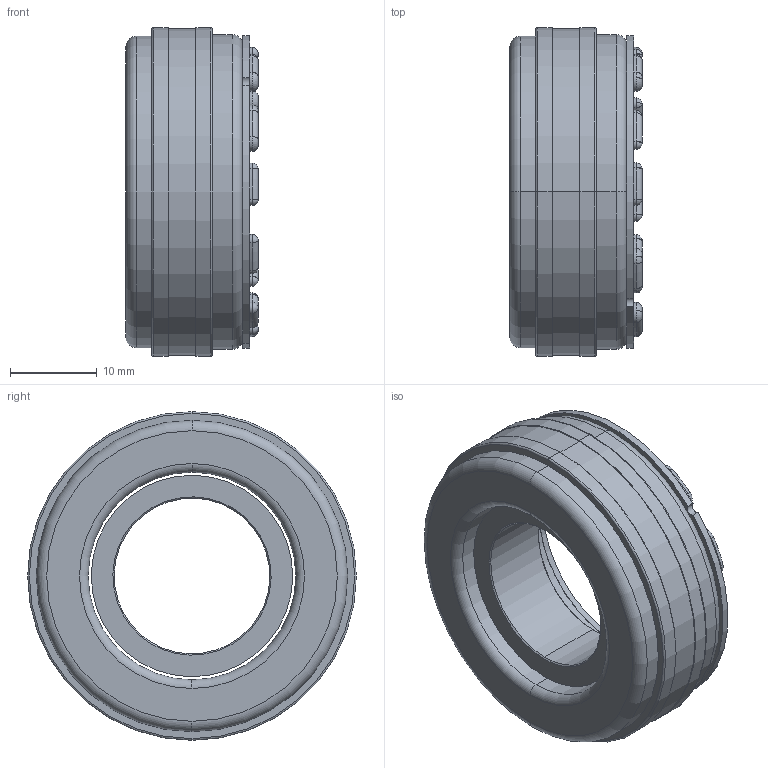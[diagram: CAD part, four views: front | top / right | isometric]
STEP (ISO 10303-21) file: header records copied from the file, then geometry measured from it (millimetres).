
FILE_DESCRIPTION (( 'STEP AP214' ), '1' );
FILE_NAME ('E-00108485.01.step', '2019-07-15T12:00:54', ( 'Admin' ), ( 'Microsoft' ), 'SwSTEP 2.0', 'SolidWorks 2018', '' );
FILE_SCHEMA (( 'AUTOMOTIVE_DESIGN' ));
Length unit declared in the file: millimetre
Products named in the file (4): E-00108485.01; E-00008484; E-00008477; E-00108484
Assembly tree (3 placements, depth 2):
  E-00108485.01
    E-00108484
    E-00008477
    E-00008484
Bounding box: 15.29 x 38 x 38 mm (x, y, z)
Volume: 10318.2 mm3; surface area: 6752.1 mm2
Topology: 3 solids, 3 shells, 780 faces, 1828 edges, 1179 vertices
Faces by surface type: cylinder 365, plane 338, torus 46, sphere 27, cone 4
Entity records: 28187 total; most frequent: DIRECTION 4289, CARTESIAN_POINT 3739, ORIENTED_EDGE 3584, EDGE_CURVE 1792, AXIS2_PLACEMENT_3D 1711, VERTEX_POINT 1161, EDGE_LOOP 935, CIRCLE 925
